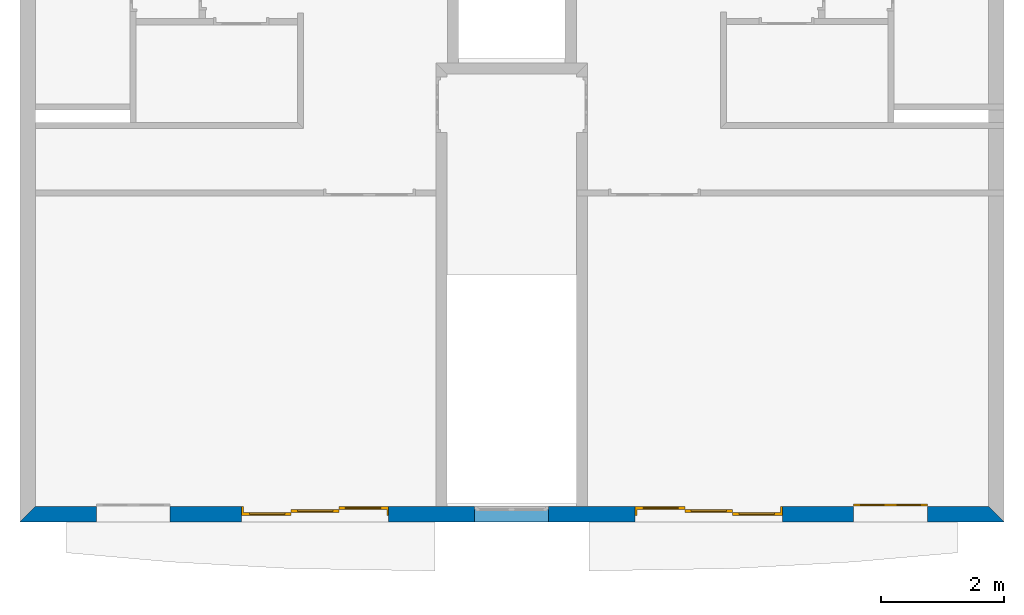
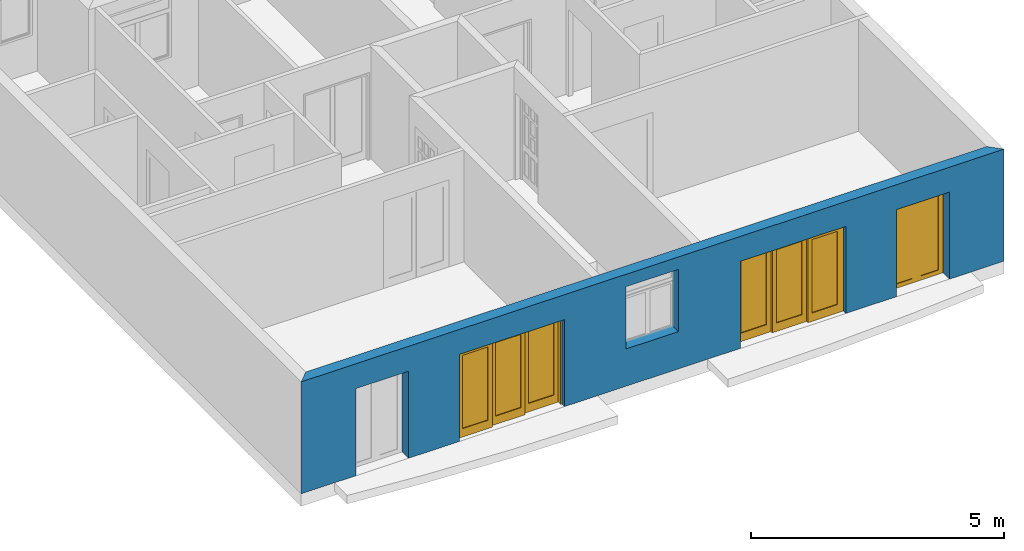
# One storey, part 2 of 11: 3 doors, 1 wall, 5 openings.
"""IFC2X3 building model written with IfcOpenShell, lengths in metres."""

import ifcopenshell
import ifcopenshell.guid

model = None  # the IFC model being written
_history = None  # IfcOwnerHistory: only IFC2X3 demands one
_inside = {}  # id of a spatial element -> (the spatial element, [elements in it])
_under = {}  # id of a project, library or spatial element -> (it, [spatial elements below it])
_declared = {}  # id of a project -> (the project, [libraries it declares])
_typed = {}  # id of a type object -> (the type object, [elements of that type])
_made_of = {}  # id of a material, layer set ... -> (it, [elements and type objects made of it])


def new_model(schema):
    """Start an empty IFC model of exactly this schema.

    Asked for "IFC4X3", IfcOpenShell would pick the latest addendum, in which some entities
    have other attributes; the version numbers below select the first issue.
    IFC2X3 requires an IfcOwnerHistory on every rooted entity: one is made here for all.
    """
    global model, _history
    if schema == "IFC4X3":
        model = ifcopenshell.file(schema_version=(4, 3, 0, 0))
    else:
        model = ifcopenshell.file(schema=schema)
    _inside.clear()
    _under.clear()
    _declared.clear()
    _typed.clear()
    _made_of.clear()
    _history = None
    if model.schema == "IFC2X3":
        org = make("IfcOrganization", Name="unknown")
        user = make(
            "IfcPersonAndOrganization",
            ThePerson=make("IfcPerson", FamilyName="unknown"),
            TheOrganization=org,
        )
        app = make(
            "IfcApplication",
            ApplicationDeveloper=org,
            Version="unknown",
            ApplicationFullName="unknown",
            ApplicationIdentifier="unknown",
        )
        _history = make(
            "IfcOwnerHistory",
            OwningUser=user,
            OwningApplication=app,
            ChangeAction="ADDED",
            CreationDate=0,
        )
    return model


def make(cls, **values):
    """One entity of the class cls with the attributes given. An attribute that is None is left unset."""
    return model.create_entity(
        cls, **{name: value for name, value in values.items() if value is not None}
    )


def entity(cls, *values):
    """Any entity or typed value of the class cls, its attributes in the order of the schema. None: left unset."""
    e = model.create_entity(cls)
    for i, value in enumerate(values):
        if value is not None:
            e[i] = value
    return e


def rooted(cls, **values):
    """An entity with a GlobalId (a new one), such as an element, a storey or a relation."""
    return make(cls, GlobalId=ifcopenshell.guid.new(), OwnerHistory=_history, **values)


def si_unit(unit_type, name, prefix=None):
    """IfcSIUnit, for example si_unit("LENGTHUNIT", "METRE", prefix="MILLI")."""
    return make("IfcSIUnit", UnitType=unit_type, Prefix=prefix, Name=name)


def converted_unit(unit_type, name, factor, base, dimensions=None, offset=None):
    """IfcConversionBasedUnit, such as the inch: factor (a typed value) times the base unit."""
    return make(
        "IfcConversionBasedUnit"
        if offset is None
        else "IfcConversionBasedUnitWithOffset",
        ConversionOffset=offset,
        Dimensions=None
        if dimensions is None
        else entity("IfcDimensionalExponents", *dimensions),
        UnitType=unit_type,
        Name=name,
        ConversionFactor=make(
            "IfcMeasureWithUnit", ValueComponent=factor, UnitComponent=base
        ),
    )


def assignment(units):
    """IfcUnitAssignment: the units of a project."""
    return None if units is None else make("IfcUnitAssignment", Units=units)


def point(xyz):
    """IfcCartesianPoint."""
    return None if xyz is None else make("IfcCartesianPoint", Coordinates=xyz)


def direction(xyz):
    """IfcDirection."""
    return None if xyz is None else make("IfcDirection", DirectionRatios=xyz)


def frame(location, z_axis=None, x_axis=None):
    """IfcAxis2Placement3D, a coordinate frame: its origin and axes. An axis left out is left unset."""
    return make(
        "IfcAxis2Placement3D",
        Location=point(location),
        Axis=direction(z_axis),
        RefDirection=direction(x_axis),
    )


def frame_2d(location, x_axis=None):
    """IfcAxis2Placement2D, a coordinate frame in the plane: its origin and x axis."""
    return make(
        "IfcAxis2Placement2D", Location=point(location), RefDirection=direction(x_axis)
    )


def origin_with_axes():
    """The frame at (0, 0, 0) with the z axis (0, 0, 1) and the x axis (1, 0, 0) written out."""
    return frame((0.0, 0.0, 0.0), z_axis=(0.0, 0.0, 1.0), x_axis=(1.0, 0.0, 0.0))


def place(relative_to, where):
    """IfcLocalPlacement: puts the frame where relative to a parent placement (None: the world)."""
    return make(
        "IfcLocalPlacement", PlacementRelTo=relative_to, RelativePlacement=where
    )


def context(
    kind, dimensions, precision=None, world=None, true_north=None, identifier=None
):
    """IfcGeometricRepresentationContext, for example the 3D "Model" context."""
    return make(
        "IfcGeometricRepresentationContext",
        ContextIdentifier=identifier,
        ContextType=kind,
        CoordinateSpaceDimension=dimensions,
        Precision=precision,
        WorldCoordinateSystem=world,
        TrueNorth=true_north,
    )


def project(units=None, contexts=None):
    """IfcProject with its units and contexts."""
    return rooted(
        "IfcProject",
        Name="project",
        RepresentationContexts=contexts,
        UnitsInContext=assignment(units),
    )


def spatial(cls, under=None, at=None, **own):
    """A site, building, storey or space (cls), placed at a placement, below another one or the project."""
    s = rooted(cls, ObjectPlacement=at, **own)
    if under is not None:
        _under.setdefault(under.id(), (under, []))[1].append(s)
    return s


def polyline(points):
    """IfcPolyline through the points."""
    return make("IfcPolyline", Points=[point(p) for p in points])


def profile(cls, at=None, kind="AREA", **sizes):
    """A parametric profile (cls). Its sizes go by their IFC names, for example OverallWidth=200.0."""
    return make(cls, ProfileType=kind, Position=at, **sizes)


def rectangle(**sizes):
    """IfcRectangleProfileDef."""
    return profile("IfcRectangleProfileDef", **sizes)


def outline(outer, holes=None, kind="AREA"):
    """IfcArbitraryClosedProfileDef: a profile drawn as a closed curve; with holes, ...WithVoids."""
    if holes is None:
        return make("IfcArbitraryClosedProfileDef", ProfileType=kind, OuterCurve=outer)
    return make(
        "IfcArbitraryProfileDefWithVoids",
        ProfileType=kind,
        OuterCurve=outer,
        InnerCurves=holes,
    )


def extrude(swept, where, along, depth):
    """IfcExtrudedAreaSolid: the profile swept, set in the frame where, extruded along a direction by depth."""
    return make(
        "IfcExtrudedAreaSolid",
        SweptArea=swept,
        Position=where,
        ExtrudedDirection=direction(along),
        Depth=depth,
    )


def faces_of(points, faces, orient=None, outer=None):
    """IfcFace entities. A face is a list of loops; a loop is a list of indices into points, from 0.

    orient and outer hold one flag for each loop. By default every Orientation is true, the
    first loop of a face is its IfcFaceOuterBound and the others are IfcFaceBound.
    """
    made = []
    for i, loops in enumerate(faces):
        bounds = []
        for j, loop in enumerate(loops):
            is_outer = j == 0 if outer is None else outer[i][j]
            bounds.append(
                make(
                    "IfcFaceOuterBound" if is_outer else "IfcFaceBound",
                    Bound=make("IfcPolyLoop", Polygon=[points[k] for k in loop]),
                    Orientation=True if orient is None else orient[i][j],
                )
            )
        made.append(make("IfcFace", Bounds=bounds))
    return made


def faceted_brep(points, faces, orient=None, outer=None, voids=None):
    """IfcFacetedBrep: a solid bounded by flat faces; with voids (closed shells), ...WithVoids."""
    shared = [point(p) for p in points]
    hull = make("IfcClosedShell", CfsFaces=faces_of(shared, faces, orient, outer))
    if voids is None:
        return make("IfcFacetedBrep", Outer=hull)
    return make(
        "IfcFacetedBrepWithVoids",
        Outer=hull,
        Voids=[
            make(cls, CfsFaces=faces_of(shared, fs, o, b)) for cls, fs, o, b in voids
        ],
    )


def shape(context_of_items, identifier, shape_type, items):
    """IfcShapeRepresentation: the items that make up one representation, for example the "Body"."""
    return make(
        "IfcShapeRepresentation",
        ContextOfItems=context_of_items,
        RepresentationIdentifier=identifier,
        RepresentationType=shape_type,
        Items=items,
    )


def source(mapping_origin, context_of_items, identifier, shape_type, items):
    """IfcRepresentationMap: a shape defined once, which mapped items show again and again."""
    return make(
        "IfcRepresentationMap",
        MappingOrigin=mapping_origin,
        MappedRepresentation=shape(context_of_items, identifier, shape_type, items),
    )


def transform(
    local_origin,
    x_axis=None,
    y_axis=None,
    z_axis=None,
    scale=None,
    scale2=None,
    scale3=None,
    uniform=True,
):
    """IfcCartesianTransformationOperator3D, or its non-uniform kind. x_axis, y_axis, z_axis: its Axis1, 2, 3."""
    if uniform:
        return make(
            "IfcCartesianTransformationOperator3D",
            Axis1=direction(x_axis),
            Axis2=direction(y_axis),
            LocalOrigin=point(local_origin),
            Scale=scale,
            Axis3=direction(z_axis),
        )
    return make(
        "IfcCartesianTransformationOperator3DnonUniform",
        Axis1=direction(x_axis),
        Axis2=direction(y_axis),
        LocalOrigin=point(local_origin),
        Scale=scale,
        Axis3=direction(z_axis),
        Scale2=scale2,
        Scale3=scale3,
    )


def mapped(mapping_source, mapping_target):
    """IfcMappedItem: shows the shape of a source again, moved by a transform."""
    return make(
        "IfcMappedItem", MappingSource=mapping_source, MappingTarget=mapping_target
    )


def material(Name=None, Category=None):
    """IfcMaterial."""
    return make("IfcMaterial", Name=Name, Category=Category)


def layer(
    of_material, thickness, ventilated=None, Name=None, Category=None, Priority=None
):
    """IfcMaterialLayer: one layer of a wall or slab, of a material (None: an air gap)."""
    return make(
        "IfcMaterialLayer",
        Material=of_material,
        LayerThickness=thickness,
        IsVentilated=ventilated,
        Name=Name,
        Category=Category,
        Priority=Priority,
    )


def layer_set(layers, Name=None):
    """IfcMaterialLayerSet."""
    return make("IfcMaterialLayerSet", MaterialLayers=layers, LayerSetName=Name)


def layer_usage(for_layer_set, set_direction, sense, offset, extent=None):
    """IfcMaterialLayerSetUsage: how a layer set lies in its element."""
    return make(
        "IfcMaterialLayerSetUsage",
        ForLayerSet=for_layer_set,
        LayerSetDirection=set_direction,
        DirectionSense=sense,
        OffsetFromReferenceLine=offset,
        ReferenceExtent=extent,
    )


def made_of(thing, what):
    """Note that an element or type object is made of a material, layer set ...; save() writes the relation."""
    if what is not None:
        _made_of.setdefault(what.id(), (what, []))[1].append(thing)
    return thing


def type_object(cls, material=None, **own):
    """A type object (cls), such as IfcWallType, which elements share."""
    return made_of(rooted(cls, **own), material)


def element(
    cls,
    number,
    at=None,
    inside=None,
    cuts=None,
    type_object=None,
    material=None,
    context=None,
    identifier="Body",
    shape_type=None,
    held_by="IfcProductDefinitionShape",
    body=None,
    shapes=None,
    **own,
):
    """One element of the class cls, such as IfcWall. Its Tag is "e" and its number.

    at: its placement. inside: the storey or other place that contains it. cuts: it is an
    opening in that element (IfcRelVoidsElement). A single representation is given by context,
    identifier, shape_type and body (its items); several are given by shapes. held_by: the class
    of the entity that holds the representations. save() writes the other relations.
    """
    e = rooted(cls, Tag="e%d" % number, ObjectPlacement=at, **own)
    if body is not None:
        shapes = [shape(context, identifier, shape_type, body)]
    if shapes is not None:
        e.Representation = make(held_by, Representations=shapes)
    if inside is not None:
        _inside.setdefault(inside.id(), (inside, []))[1].append(e)
    if cuts is not None:
        rooted(
            "IfcRelVoidsElement", RelatingBuildingElement=cuts, RelatedOpeningElement=e
        )
    if type_object is not None:
        _typed.setdefault(type_object.id(), (type_object, []))[1].append(e)
    return made_of(e, material)


def fill(opening, filler):
    """IfcRelFillsElement: the door or window that sits in an opening."""
    return rooted(
        "IfcRelFillsElement",
        RelatingOpeningElement=opening,
        RelatedBuildingElement=filler,
    )


def aggregate(whole, parts):
    """IfcRelAggregates: a whole, such as a stair, and the parts it consists of."""
    return rooted("IfcRelAggregates", RelatingObject=whole, RelatedObjects=parts)


def save(model, path):
    """Write the relations noted so far, then the file.

    IfcRelAggregates (storeys below a building ...), IfcRelContainedInSpatialStructure (elements
    in a storey), IfcRelDefinesByType, IfcRelAssociatesMaterial and IfcRelDeclares: one each for
    every whole, place, type object, material and project.
    """
    for whole, parts in _under.values():
        aggregate(whole, parts)
    for where, things in _inside.values():
        rooted(
            "IfcRelContainedInSpatialStructure",
            RelatedElements=things,
            RelatingStructure=where,
        )
    for kind, things in _typed.values():
        rooted("IfcRelDefinesByType", RelatedObjects=things, RelatingType=kind)
    for what, things in _made_of.values():
        rooted("IfcRelAssociatesMaterial", RelatedObjects=things, RelatingMaterial=what)
    for by, libraries in _declared.values():
        rooted("IfcRelDeclares", RelatingContext=by, RelatedDefinitions=libraries)
    model.write(path)


model = new_model("IFC2X3")

# Units and contexts
context_of_model = context(None, 3, precision=1e-05, world=origin_with_axes(), true_north=direction((6.123234e-17, 1.0)))
plan_context = context("Plan", 3, precision=1e-05, world=origin_with_axes(), true_north=direction((6.123234e-17, 1.0)))
model_context = context("Model", 3, precision=1e-05, world=origin_with_axes(), true_north=direction((6.123234e-17, 1.0)))
ifc_project = project(units=[si_unit("LENGTHUNIT", "METRE"), si_unit("AREAUNIT", "SQUARE_METRE"), si_unit("VOLUMEUNIT", "CUBIC_METRE"), converted_unit("PLANEANGLEUNIT", "DEGREE", entity("IfcPlaneAngleMeasure", 0.017453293), si_unit("PLANEANGLEUNIT", "RADIAN"), dimensions=[0, 0, 0, 0, 0, 0, 0]), si_unit("SOLIDANGLEUNIT", "STERADIAN"), si_unit("MASSUNIT", "GRAM"), si_unit("TIMEUNIT", "SECOND"), si_unit("THERMODYNAMICTEMPERATUREUNIT", "DEGREE_CELSIUS"), si_unit("LUMINOUSINTENSITYUNIT", "LUMEN")], contexts=[context_of_model, plan_context, model_context])

# Site, building, storey
site_placement = place(None, origin_with_axes())
site = spatial("IfcSite", under=ifc_project, at=site_placement, Name="Por defecto Sitio", CompositionType="ELEMENT")
building_placement = place(site_placement, origin_with_axes())
building = spatial("IfcBuilding", under=site, at=building_placement, Name="Por defecto Edificio", CompositionType="ELEMENT")
storey_placement = place(building_placement, frame((0.0, 0.0, 13.2), z_axis=(0.0, 0.0, 1.0), x_axis=(1.0, 0.0, 0.0)))
storey = spatial("IfcBuildingStorey", under=building, at=storey_placement, Name="Cuarta", CompositionType="ELEMENT", Elevation=13.2)

# Wall, openings, doors
ifc_material = material(Name="Ladrillo común")
ifc_layer = layer(ifc_material, 0.25, ventilated="UNKNOWN")
ifc_layer_set = layer_set([ifc_layer], Name="Ladrillo común")
ifc_layer_usage = layer_usage(ifc_layer_set, "AXIS2", "NEGATIVE", 0.0)
wall_type = type_object("IfcWallType", Name="Ladrillo común", PredefinedType="NOTDEFINED")
wall_placement = place(storey_placement, frame((16.03417, -1.1368684e-13, 0.0), z_axis=(0.0, 0.0, 1.0), x_axis=(-1.0, 7.0902852e-15, 0.0)))
wall = element("IfcWallStandardCase", 1, at=wall_placement, inside=storey, type_object=wall_type, material=ifc_layer_usage, Name="Muro-011", context=context_of_model, shape_type="SweptSolid", body=[
    extrude(outline(polyline([(0.25, -0.25), (15.784178, -0.25), (16.03417, 0.0), (0.0, 0.0), (0.25, -0.25)])), origin_with_axes(), (0.0, 0.0, 1.0), 2.7),
])
opening_1_placement = place(wall_placement, frame((11.225136, -0.25, 0.0), z_axis=(0.0, 0.0, 1.0), x_axis=(1.0, 0.0, 0.0)))
opening_1 = element("IfcOpeningElement", 2, at=opening_1_placement, cuts=wall, ObjectType="Opening", context=model_context, shape_type="SweptSolid", body=[
    extrude(rectangle(XDim=2.4, YDim=2.1, at=frame_2d((-1.7763568e-15, 1.05), x_axis=(-1.0, 0.0))), frame((0.0, 0.0, 0.0), z_axis=(0.0, 1.0, 0.0), x_axis=(-1.0, 0.0, 0.0)), (0.0, 0.0, 1.0), 0.25),
])
opening_2_placement = place(wall_placement, frame((4.8090341, -0.25, 0.0), z_axis=(0.0, 0.0, 1.0), x_axis=(1.0, 0.0, 0.0)))
opening_2 = element("IfcOpeningElement", 3, at=opening_2_placement, cuts=wall, ObjectType="Opening", context=model_context, shape_type="SweptSolid", body=[
    extrude(rectangle(XDim=2.4, YDim=2.1, at=frame_2d((-1.7763568e-15, 1.05), x_axis=(-1.0, 0.0))), frame((0.0, 0.0, 0.0), z_axis=(0.0, 1.0, 0.0), x_axis=(-1.0, 0.0, 0.0)), (0.0, 0.0, 1.0), 0.25),
])
opening_3_placement = place(wall_placement, frame((1.8475705, -0.25, 0.0), z_axis=(0.0, 0.0, 1.0), x_axis=(1.0, 0.0, 0.0)))
opening_3 = element("IfcOpeningElement", 4, at=opening_3_placement, cuts=wall, ObjectType="Opening", context=model_context, shape_type="SweptSolid", body=[
    extrude(rectangle(XDim=1.2, YDim=2.1, at=frame_2d((-1.7763568e-15, 1.05), x_axis=(-1.0, 0.0))), frame((0.0, 0.0, 0.0), z_axis=(0.0, 1.0, 0.0), x_axis=(-1.0, 0.0, 0.0)), (0.0, 0.0, 1.0), 0.25),
])
opening_4_placement = place(wall_placement, frame((14.186599, -0.25, 0.0), z_axis=(0.0, 0.0, 1.0), x_axis=(1.0, 0.0, 0.0)))
element("IfcOpeningElement", 5, at=opening_4_placement, cuts=wall, ObjectType="Opening", context=model_context, shape_type="SweptSolid", body=[
    extrude(rectangle(XDim=1.2, YDim=2.1, at=frame_2d((-1.7763568e-15, 1.05), x_axis=(-1.0, 0.0))), frame((0.0, 0.0, 0.0), z_axis=(0.0, 1.0, 0.0), x_axis=(-1.0, 0.0, 0.0)), (0.0, 0.0, 1.0), 0.25),
])
opening_5_placement = place(wall_placement, frame((8.0241698, -0.25, 0.9), z_axis=(0.0, 0.0, 1.0), x_axis=(1.0, 0.0, 0.0)))
element("IfcOpeningElement", 6, at=opening_5_placement, cuts=wall, ObjectType="Opening", context=model_context, shape_type="SweptSolid", body=[
    extrude(rectangle(XDim=1.2, YDim=1.5, at=frame_2d((-1.7763568e-15, 0.75), x_axis=(-1.0, 0.0))), frame((0.0, 0.0, 0.0), z_axis=(0.0, 1.0, 0.0), x_axis=(-1.0, 0.0, 0.0)), (0.0, 0.0, 1.0), 0.25),
])
door_style_1 = type_object("IfcDoorStyle", Name="P2 Corredera Ext 12", ConstructionType="NOTDEFINED", OperationType="DOUBLE_DOOR_SLIDING", ParameterTakesPrecedence=False, Sizeable=False)
shared_shape_1 = source(origin_with_axes(), model_context, "Body", "Brep", [
    faceted_brep([(-2.4424907e-15, 0.045, 0.1), (0.1, 0.045, 0.1), (0.1, 0.005, 0.1), (-2.220446e-15, 0.005, 0.1), (-2.4424907e-15, 0.045, 2.0), (0.1, 0.045, 2.0), (0.1, 0.005, 2.0), (-2.220446e-15, 0.005, 2.0)], [[[0, 1, 2, 3]], [[0, 4, 5, 1]], [[1, 5, 6, 2]], [[3, 2, 6, 7]], [[4, 0, 3, 7]], [[5, 4, 7, 6]]]),
    faceted_brep([(0.6, 0.045, 0.1), (0.6, 0.045, 2.0), (0.6, 0.005, 2.0), (0.6, 0.005, 0.1), (0.5, 0.045, 0.1), (0.5, 0.045, 2.0), (0.5, 0.005, 2.0), (0.5, 0.005, 0.1)], [[[0, 1, 2, 3]], [[0, 4, 5, 1]], [[1, 5, 6, 2]], [[3, 2, 6, 7]], [[4, 0, 3, 7]], [[5, 4, 7, 6]]]),
    faceted_brep([(-2.4424907e-15, 0.045, 0.0), (0.6, 0.045, 0.0), (0.6, 0.005, 0.0), (-2.220446e-15, 0.005, 0.0), (-2.4424907e-15, 0.045, 0.1), (0.1, 0.045, 0.1), (0.5, 0.045, 0.1), (0.6, 0.045, 0.1), (0.6, 0.005, 0.1), (0.5, 0.005, 0.1), (0.1, 0.005, 0.1), (-2.220446e-15, 0.005, 0.1)], [[[0, 1, 2, 3]], [[0, 4, 5, 6, 7, 1]], [[1, 7, 8, 2]], [[3, 2, 8, 9, 10, 11]], [[4, 0, 3, 11]], [[5, 4, 11, 10]], [[6, 5, 10, 9]], [[7, 6, 9, 8]]]),
    faceted_brep([(-2.4424907e-15, 0.045, 2.1), (-2.4424907e-15, 0.045, 2.0), (-2.220446e-15, 0.005, 2.0), (-2.220446e-15, 0.005, 2.1), (0.6, 0.045, 2.1), (0.6, 0.045, 2.0), (0.5, 0.045, 2.0), (0.1, 0.045, 2.0), (0.1, 0.005, 2.0), (0.5, 0.005, 2.0), (0.6, 0.005, 2.0), (0.6, 0.005, 2.1)], [[[0, 1, 2, 3]], [[0, 4, 5, 6, 7, 1]], [[1, 7, 8, 2]], [[3, 2, 8, 9, 10, 11]], [[4, 0, 3, 11]], [[5, 4, 11, 10]], [[6, 5, 10, 9]], [[7, 6, 9, 8]]]),
    faceted_brep([(0.1, 0.031, 0.1), (0.5, 0.031, 0.1), (0.5, 0.019, 0.1), (0.1, 0.019, 0.1), (0.1, 0.031, 2.0), (0.5, 0.031, 2.0), (0.5, 0.019, 2.0), (0.1, 0.019, 2.0)], [[[0, 1, 2, 3]], [[0, 4, 5, 1]], [[1, 5, 6, 2]], [[3, 2, 6, 7]], [[4, 0, 3, 7]], [[5, 4, 7, 6]]]),
    faceted_brep([(1.2, 0.045, 0.1), (1.2, 0.005, 0.1), (1.1, 0.005, 0.1), (1.1, 0.045, 0.1), (1.2, 0.045, 2.0), (1.2, 0.005, 2.0), (1.1, 0.005, 2.0), (1.1, 0.045, 2.0)], [[[0, 1, 2, 3]], [[4, 5, 1, 0]], [[1, 5, 6, 2]], [[3, 2, 6, 7]], [[0, 3, 7, 4]], [[7, 6, 5, 4]]]),
    faceted_brep([(0.6, 0.045, 0.1), (0.6, 0.005, 0.1), (0.6, 0.005, 2.0), (0.6, 0.045, 2.0), (0.7, 0.045, 0.1), (0.7, 0.005, 0.1), (0.7, 0.005, 2.0), (0.7, 0.045, 2.0)], [[[0, 1, 2, 3]], [[4, 5, 1, 0]], [[1, 5, 6, 2]], [[3, 2, 6, 7]], [[0, 3, 7, 4]], [[7, 6, 5, 4]]]),
    faceted_brep([(1.2, 0.045, 0.0), (1.2, 0.005, 0.0), (0.6, 0.005, 0.0), (0.6, 0.045, 0.0), (1.2, 0.045, 0.1), (1.2, 0.005, 0.1), (1.1, 0.005, 0.1), (0.7, 0.005, 0.1), (0.6, 0.005, 0.1), (0.6, 0.045, 0.1), (0.7, 0.045, 0.1), (1.1, 0.045, 0.1)], [[[0, 1, 2, 3]], [[4, 5, 1, 0]], [[1, 5, 6, 7, 8, 2]], [[3, 2, 8, 9]], [[0, 3, 9, 10, 11, 4]], [[11, 6, 5, 4]], [[10, 7, 6, 11]], [[9, 8, 7, 10]]]),
    faceted_brep([(1.2, 0.045, 2.1), (1.2, 0.005, 2.1), (1.2, 0.005, 2.0), (1.2, 0.045, 2.0), (0.6, 0.045, 2.1), (0.6, 0.005, 2.1), (0.6, 0.005, 2.0), (0.7, 0.005, 2.0), (1.1, 0.005, 2.0), (1.1, 0.045, 2.0), (0.7, 0.045, 2.0), (0.6, 0.045, 2.0)], [[[0, 1, 2, 3]], [[4, 5, 1, 0]], [[1, 5, 6, 7, 8, 2]], [[3, 2, 8, 9]], [[0, 3, 9, 10, 11, 4]], [[11, 6, 5, 4]], [[10, 7, 6, 11]], [[9, 8, 7, 10]]]),
    faceted_brep([(1.1, 0.031, 0.1), (1.1, 0.019, 0.1), (0.7, 0.019, 0.1), (0.7, 0.031, 0.1), (1.1, 0.031, 2.0), (1.1, 0.019, 2.0), (0.7, 0.019, 2.0), (0.7, 0.031, 2.0)], [[[0, 1, 2, 3]], [[4, 5, 1, 0]], [[1, 5, 6, 2]], [[3, 2, 6, 7]], [[0, 3, 7, 4]], [[7, 6, 5, 4]]]),
])
door_1_placement = place(opening_3_placement, frame((0.6, 0.0, 0.0), z_axis=(0.0, 0.0, 1.0), x_axis=(-1.0, 0.0, 0.0)))
door_1 = element("IfcDoor", 7, at=door_1_placement, inside=storey, type_object=door_style_1, Name="P30", OverallHeight=2.1, OverallWidth=1.2, context=model_context, shape_type="MappedRepresentation", body=[
    mapped(shared_shape_1, transform((0.0, 0.0, 0.0), scale=1.0)),
])
fill(opening_3, door_1)
door_style_2 = type_object("IfcDoorStyle", Name="P3 Corredera 12", ConstructionType="NOTDEFINED", OperationType="SLIDING_TO_RIGHT", ParameterTakesPrecedence=False, Sizeable=False)
shared_shape_2 = source(origin_with_axes(), model_context, "Body", "Brep", [
    faceted_brep([(0.03, 0.15, 0.0), (0.03, 0.15, 2.07), (0.03, -8.6333718e-14, 2.07), (0.03, -8.6222696e-14, 0.0), (-1.7763568e-15, 0.15, 0.0), (-1.7763568e-15, 0.15, 2.07), (-8.8817842e-16, -8.6541885e-14, 2.07), (0.0, 0.0, 0.0)], [[[0, 1, 2, 3]], [[0, 4, 5, 1]], [[1, 5, 6, 2]], [[3, 2, 6, 7]], [[4, 0, 3, 7]], [[5, 4, 7, 6]]]),
    faceted_brep([(2.4, 0.15, 0.0), (2.4, 0.15, 2.07), (2.4, -7.0110584e-14, 2.07), (2.4, -6.9999562e-14, 0.0), (2.37, 0.15, 0.0), (2.37, 0.15, 2.07), (2.37, -7.0318751e-14, 2.07), (2.37, -7.0179973e-14, 0.0)], [[[0, 1, 2, 3]], [[0, 4, 5, 1]], [[1, 5, 6, 2]], [[3, 2, 6, 7]], [[4, 0, 3, 7]], [[5, 4, 7, 6]]]),
    faceted_brep([(-1.7763568e-15, 0.15, 2.1), (-1.7763568e-15, 0.15, 2.07), (-8.8817842e-16, -8.6541885e-14, 2.07), (-8.8817842e-16, -8.6541885e-14, 2.1), (2.4, 0.15, 2.1), (2.4, 0.15, 2.07), (2.37, 0.15, 2.07), (0.03, 0.15, 2.07), (0.03, -8.6333718e-14, 2.07), (2.37, -7.0318751e-14, 2.07), (2.4, -7.0110584e-14, 2.07), (2.4, -7.0110584e-14, 2.1)], [[[0, 1, 2, 3]], [[0, 4, 5, 6, 7, 1]], [[1, 7, 8, 2]], [[3, 2, 8, 9, 10, 11]], [[4, 0, 3, 11]], [[5, 4, 11, 10]], [[6, 5, 10, 9]], [[7, 6, 9, 8]]]),
    faceted_brep([(2.37, 0.15, 0.2), (2.37, 0.1, 0.2), (2.27, 0.1, 0.2), (2.27, 0.15, 0.2), (2.37, 0.15, 1.97), (2.37, 0.1, 1.97), (2.27, 0.1, 1.97), (2.27, 0.15, 1.97)], [[[0, 1, 2, 3]], [[4, 5, 1, 0]], [[1, 5, 6, 2]], [[3, 2, 6, 7]], [[0, 3, 7, 4]], [[7, 6, 5, 4]]]),
    faceted_brep([(1.59, 0.15, 0.2), (1.59, 0.1, 0.2), (1.59, 0.1, 1.97), (1.59, 0.15, 1.97), (1.69, 0.15, 0.2), (1.69, 0.1, 0.2), (1.69, 0.1, 1.97), (1.69, 0.15, 1.97)], [[[0, 1, 2, 3]], [[4, 5, 1, 0]], [[1, 5, 6, 2]], [[3, 2, 6, 7]], [[0, 3, 7, 4]], [[7, 6, 5, 4]]]),
    faceted_brep([(2.37, 0.15, 0.0), (2.37, 0.1, 0.0), (1.59, 0.1, 0.0), (1.59, 0.15, 0.0), (2.37, 0.15, 0.2), (2.37, 0.1, 0.2), (2.27, 0.1, 0.2), (1.69, 0.1, 0.2), (1.59, 0.1, 0.2), (1.59, 0.15, 0.2), (1.69, 0.15, 0.2), (2.27, 0.15, 0.2)], [[[0, 1, 2, 3]], [[4, 5, 1, 0]], [[1, 5, 6, 7, 8, 2]], [[3, 2, 8, 9]], [[0, 3, 9, 10, 11, 4]], [[11, 6, 5, 4]], [[10, 7, 6, 11]], [[9, 8, 7, 10]]]),
    faceted_brep([(2.37, 0.15, 2.07), (2.37, 0.1, 2.07), (2.37, 0.1, 1.97), (2.37, 0.15, 1.97), (1.59, 0.15, 2.07), (1.59, 0.1, 2.07), (1.59, 0.1, 1.97), (1.69, 0.1, 1.97), (2.27, 0.1, 1.97), (2.27, 0.15, 1.97), (1.69, 0.15, 1.97), (1.59, 0.15, 1.97)], [[[0, 1, 2, 3]], [[4, 5, 1, 0]], [[1, 5, 6, 7, 8, 2]], [[3, 2, 8, 9]], [[0, 3, 9, 10, 11, 4]], [[11, 6, 5, 4]], [[10, 7, 6, 11]], [[9, 8, 7, 10]]]),
    faceted_brep([(2.27, 0.131, 0.2), (2.27, 0.119, 0.2), (1.69, 0.119, 0.2), (1.69, 0.131, 0.2), (2.27, 0.131, 1.97), (2.27, 0.119, 1.97), (1.69, 0.119, 1.97), (1.69, 0.131, 1.97)], [[[0, 1, 2, 3]], [[4, 5, 1, 0]], [[1, 5, 6, 2]], [[3, 2, 6, 7]], [[0, 3, 7, 4]], [[7, 6, 5, 4]]]),
    faceted_brep([(1.59, 0.1, 0.2), (1.59, 0.05, 0.2), (1.49, 0.05, 0.2), (1.49, 0.1, 0.2), (1.59, 0.1, 1.97), (1.59, 0.05, 1.97), (1.49, 0.05, 1.97), (1.49, 0.1, 1.97)], [[[0, 1, 2, 3]], [[4, 5, 1, 0]], [[1, 5, 6, 2]], [[3, 2, 6, 7]], [[0, 3, 7, 4]], [[7, 6, 5, 4]]]),
    faceted_brep([(0.81, 0.1, 0.2), (0.81, 0.05, 0.2), (0.81, 0.05, 1.97), (0.81, 0.1, 1.97), (0.91, 0.1, 0.2), (0.91, 0.05, 0.2), (0.91, 0.05, 1.97), (0.91, 0.1, 1.97)], [[[0, 1, 2, 3]], [[4, 5, 1, 0]], [[1, 5, 6, 2]], [[3, 2, 6, 7]], [[0, 3, 7, 4]], [[7, 6, 5, 4]]]),
    faceted_brep([(1.59, 0.1, 0.0), (1.59, 0.05, 0.0), (0.81, 0.05, 0.0), (0.81, 0.1, 0.0), (1.59, 0.1, 0.2), (1.59, 0.05, 0.2), (1.49, 0.05, 0.2), (0.91, 0.05, 0.2), (0.81, 0.05, 0.2), (0.81, 0.1, 0.2), (0.91, 0.1, 0.2), (1.49, 0.1, 0.2)], [[[0, 1, 2, 3]], [[4, 5, 1, 0]], [[1, 5, 6, 7, 8, 2]], [[3, 2, 8, 9]], [[0, 3, 9, 10, 11, 4]], [[11, 6, 5, 4]], [[10, 7, 6, 11]], [[9, 8, 7, 10]]]),
    faceted_brep([(1.59, 0.1, 2.07), (1.59, 0.05, 2.07), (1.59, 0.05, 1.97), (1.59, 0.1, 1.97), (0.81, 0.1, 2.07), (0.81, 0.05, 2.07), (0.81, 0.05, 1.97), (0.91, 0.05, 1.97), (1.49, 0.05, 1.97), (1.49, 0.1, 1.97), (0.91, 0.1, 1.97), (0.81, 0.1, 1.97)], [[[0, 1, 2, 3]], [[4, 5, 1, 0]], [[1, 5, 6, 7, 8, 2]], [[3, 2, 8, 9]], [[0, 3, 9, 10, 11, 4]], [[11, 6, 5, 4]], [[10, 7, 6, 11]], [[9, 8, 7, 10]]]),
    faceted_brep([(1.49, 0.081, 0.2), (1.49, 0.069, 0.2), (0.91, 0.069, 0.2), (0.91, 0.081, 0.2), (1.49, 0.081, 1.97), (1.49, 0.069, 1.97), (0.91, 0.069, 1.97), (0.91, 0.081, 1.97)], [[[0, 1, 2, 3]], [[4, 5, 1, 0]], [[1, 5, 6, 2]], [[3, 2, 6, 7]], [[0, 3, 7, 4]], [[7, 6, 5, 4]]]),
    faceted_brep([(0.81, 0.05, 0.2), (0.81, -8.0907503e-14, 0.2), (0.71, -8.1587515e-14, 0.2), (0.71, 0.05, 0.2), (0.81, 0.05, 1.97), (0.81, -8.1129548e-14, 1.97), (0.71, -8.1809559e-14, 1.97), (0.71, 0.05, 1.97)], [[[0, 1, 2, 3]], [[4, 5, 1, 0]], [[1, 5, 6, 2]], [[3, 2, 6, 7]], [[0, 3, 7, 4]], [[7, 6, 5, 4]]]),
    faceted_brep([(0.03, 0.05, 0.2), (0.03, -8.6250451e-14, 0.2), (0.03, -8.6472496e-14, 1.97), (0.03, 0.05, 1.97), (0.13, 0.05, 0.2), (0.13, -8.557044e-14, 0.2), (0.13, -8.5792484e-14, 1.97), (0.13, 0.05, 1.97)], [[[0, 1, 2, 3]], [[4, 5, 1, 0]], [[1, 5, 6, 2]], [[3, 2, 6, 7]], [[0, 3, 7, 4]], [[7, 6, 5, 4]]]),
    faceted_brep([(0.81, 0.05, 0.0), (0.81, -8.0907503e-14, 0.0), (0.03, -8.6250451e-14, 0.0), (0.03, 0.05, 0.0), (0.81, 0.05, 0.2), (0.81, -8.0907503e-14, 0.2), (0.71, -8.1587515e-14, 0.2), (0.13, -8.557044e-14, 0.2), (0.03, -8.6250451e-14, 0.2), (0.03, 0.05, 0.2), (0.13, 0.05, 0.2), (0.71, 0.05, 0.2)], [[[0, 1, 2, 3]], [[4, 5, 1, 0]], [[1, 5, 6, 7, 8, 2]], [[3, 2, 8, 9]], [[0, 3, 9, 10, 11, 4]], [[11, 6, 5, 4]], [[10, 7, 6, 11]], [[9, 8, 7, 10]]]),
    faceted_brep([(0.81, 0.05, 2.07), (0.81, -8.1129548e-14, 2.07), (0.81, -8.1129548e-14, 1.97), (0.81, 0.05, 1.97), (0.03, 0.05, 2.07), (0.03, -8.6472496e-14, 2.07), (0.03, -8.6472496e-14, 1.97), (0.13, -8.5792484e-14, 1.97), (0.71, -8.1809559e-14, 1.97), (0.71, 0.05, 1.97), (0.13, 0.05, 1.97), (0.03, 0.05, 1.97)], [[[0, 1, 2, 3]], [[4, 5, 1, 0]], [[1, 5, 6, 7, 8, 2]], [[3, 2, 8, 9]], [[0, 3, 9, 10, 11, 4]], [[11, 6, 5, 4]], [[10, 7, 6, 11]], [[9, 8, 7, 10]]]),
    faceted_brep([(0.71, 0.031, 0.2), (0.71, 0.019, 0.2), (0.13, 0.019, 0.2), (0.13, 0.031, 0.2), (0.71, 0.031, 1.97), (0.71, 0.019, 1.97), (0.13, 0.019, 1.97), (0.13, 0.031, 1.97)], [[[0, 1, 2, 3]], [[4, 5, 1, 0]], [[1, 5, 6, 2]], [[3, 2, 6, 7]], [[0, 3, 7, 4]], [[7, 6, 5, 4]]]),
])
door_2_placement = place(opening_1_placement, frame((1.2, 0.15, 0.0), z_axis=(0.0, 0.0, 1.0), x_axis=(-1.0, 0.0, 0.0)))
door_2 = element("IfcDoor", 8, at=door_2_placement, inside=storey, type_object=door_style_2, Name="P26", OverallHeight=2.1, OverallWidth=2.4, context=model_context, shape_type="MappedRepresentation", body=[
    mapped(shared_shape_2, transform((0.0, 0.0, 0.0), scale=1.0)),
])
fill(opening_1, door_2)
door_style_3 = type_object("IfcDoorStyle", Name="P3 Corredera 12", ConstructionType="NOTDEFINED", OperationType="SLIDING_TO_LEFT", ParameterTakesPrecedence=False, Sizeable=False)
shared_shape_3 = source(origin_with_axes(), model_context, "Body", "Brep", [
    faceted_brep([(2.37, 0.15, 0.0), (2.37, -2.5493496e-14, 0.0), (2.37, -2.5632274e-14, 2.07), (2.37, 0.15, 2.07), (2.4, 0.15, 0.0), (2.4, -2.5313085e-14, 0.0), (2.4, -2.5424107e-14, 2.07), (2.4, 0.15, 2.07)], [[[0, 1, 2, 3]], [[4, 5, 1, 0]], [[1, 5, 6, 2]], [[3, 2, 6, 7]], [[0, 3, 7, 4]], [[7, 6, 5, 4]]]),
    faceted_brep([(-1.7763568e-15, 0.15, 0.0), (0.0, 0.0, 0.0), (0.0, -4.1855408e-14, 2.07), (-1.7763568e-15, 0.15, 2.07), (0.03, 0.15, 0.0), (0.03, -4.1536219e-14, 0.0), (0.03, -4.1647241e-14, 2.07), (0.03, 0.15, 2.07)], [[[0, 1, 2, 3]], [[4, 5, 1, 0]], [[1, 5, 6, 2]], [[3, 2, 6, 7]], [[0, 3, 7, 4]], [[7, 6, 5, 4]]]),
    faceted_brep([(2.4, 0.15, 2.1), (2.4, -2.5424107e-14, 2.1), (2.4, -2.5424107e-14, 2.07), (2.4, 0.15, 2.07), (-1.7763568e-15, 0.15, 2.1), (0.0, -4.1855408e-14, 2.1), (0.0, -4.1855408e-14, 2.07), (0.03, -4.1647241e-14, 2.07), (2.37, -2.5632274e-14, 2.07), (2.37, 0.15, 2.07), (0.03, 0.15, 2.07), (-1.7763568e-15, 0.15, 2.07)], [[[0, 1, 2, 3]], [[4, 5, 1, 0]], [[1, 5, 6, 7, 8, 2]], [[3, 2, 8, 9]], [[0, 3, 9, 10, 11, 4]], [[11, 6, 5, 4]], [[10, 7, 6, 11]], [[9, 8, 7, 10]]]),
    faceted_brep([(0.03, 0.15, 0.2), (0.13, 0.15, 0.2), (0.13, 0.1, 0.2), (0.03, 0.1, 0.2), (0.03, 0.15, 1.97), (0.13, 0.15, 1.97), (0.13, 0.1, 1.97), (0.03, 0.1, 1.97)], [[[0, 1, 2, 3]], [[0, 4, 5, 1]], [[1, 5, 6, 2]], [[3, 2, 6, 7]], [[4, 0, 3, 7]], [[5, 4, 7, 6]]]),
    faceted_brep([(0.81, 0.15, 0.2), (0.81, 0.15, 1.97), (0.81, 0.1, 1.97), (0.81, 0.1, 0.2), (0.71, 0.15, 0.2), (0.71, 0.15, 1.97), (0.71, 0.1, 1.97), (0.71, 0.1, 0.2)], [[[0, 1, 2, 3]], [[0, 4, 5, 1]], [[1, 5, 6, 2]], [[3, 2, 6, 7]], [[4, 0, 3, 7]], [[5, 4, 7, 6]]]),
    faceted_brep([(0.03, 0.15, 0.0), (0.81, 0.15, 0.0), (0.81, 0.1, 0.0), (0.03, 0.1, 0.0), (0.03, 0.15, 0.2), (0.13, 0.15, 0.2), (0.71, 0.15, 0.2), (0.81, 0.15, 0.2), (0.81, 0.1, 0.2), (0.71, 0.1, 0.2), (0.13, 0.1, 0.2), (0.03, 0.1, 0.2)], [[[0, 1, 2, 3]], [[0, 4, 5, 6, 7, 1]], [[1, 7, 8, 2]], [[3, 2, 8, 9, 10, 11]], [[4, 0, 3, 11]], [[5, 4, 11, 10]], [[6, 5, 10, 9]], [[7, 6, 9, 8]]]),
    faceted_brep([(0.03, 0.15, 2.07), (0.03, 0.15, 1.97), (0.03, 0.1, 1.97), (0.03, 0.1, 2.07), (0.81, 0.15, 2.07), (0.81, 0.15, 1.97), (0.71, 0.15, 1.97), (0.13, 0.15, 1.97), (0.13, 0.1, 1.97), (0.71, 0.1, 1.97), (0.81, 0.1, 1.97), (0.81, 0.1, 2.07)], [[[0, 1, 2, 3]], [[0, 4, 5, 6, 7, 1]], [[1, 7, 8, 2]], [[3, 2, 8, 9, 10, 11]], [[4, 0, 3, 11]], [[5, 4, 11, 10]], [[6, 5, 10, 9]], [[7, 6, 9, 8]]]),
    faceted_brep([(0.13, 0.131, 0.2), (0.71, 0.131, 0.2), (0.71, 0.119, 0.2), (0.13, 0.119, 0.2), (0.13, 0.131, 1.97), (0.71, 0.131, 1.97), (0.71, 0.119, 1.97), (0.13, 0.119, 1.97)], [[[0, 1, 2, 3]], [[0, 4, 5, 1]], [[1, 5, 6, 2]], [[3, 2, 6, 7]], [[4, 0, 3, 7]], [[5, 4, 7, 6]]]),
    faceted_brep([(0.81, 0.1, 0.2), (0.91, 0.1, 0.2), (0.91, 0.05, 0.2), (0.81, 0.05, 0.2), (0.81, 0.1, 1.97), (0.91, 0.1, 1.97), (0.91, 0.05, 1.97), (0.81, 0.05, 1.97)], [[[0, 1, 2, 3]], [[0, 4, 5, 1]], [[1, 5, 6, 2]], [[3, 2, 6, 7]], [[4, 0, 3, 7]], [[5, 4, 7, 6]]]),
    faceted_brep([(1.59, 0.1, 0.2), (1.59, 0.1, 1.97), (1.59, 0.05, 1.97), (1.59, 0.05, 0.2), (1.49, 0.1, 0.2), (1.49, 0.1, 1.97), (1.49, 0.05, 1.97), (1.49, 0.05, 0.2)], [[[0, 1, 2, 3]], [[0, 4, 5, 1]], [[1, 5, 6, 2]], [[3, 2, 6, 7]], [[4, 0, 3, 7]], [[5, 4, 7, 6]]]),
    faceted_brep([(0.81, 0.1, 0.0), (1.59, 0.1, 0.0), (1.59, 0.05, 0.0), (0.81, 0.05, 0.0), (0.81, 0.1, 0.2), (0.91, 0.1, 0.2), (1.49, 0.1, 0.2), (1.59, 0.1, 0.2), (1.59, 0.05, 0.2), (1.49, 0.05, 0.2), (0.91, 0.05, 0.2), (0.81, 0.05, 0.2)], [[[0, 1, 2, 3]], [[0, 4, 5, 6, 7, 1]], [[1, 7, 8, 2]], [[3, 2, 8, 9, 10, 11]], [[4, 0, 3, 11]], [[5, 4, 11, 10]], [[6, 5, 10, 9]], [[7, 6, 9, 8]]]),
    faceted_brep([(0.81, 0.1, 2.07), (0.81, 0.1, 1.97), (0.81, 0.05, 1.97), (0.81, 0.05, 2.07), (1.59, 0.1, 2.07), (1.59, 0.1, 1.97), (1.49, 0.1, 1.97), (0.91, 0.1, 1.97), (0.91, 0.05, 1.97), (1.49, 0.05, 1.97), (1.59, 0.05, 1.97), (1.59, 0.05, 2.07)], [[[0, 1, 2, 3]], [[0, 4, 5, 6, 7, 1]], [[1, 7, 8, 2]], [[3, 2, 8, 9, 10, 11]], [[4, 0, 3, 11]], [[5, 4, 11, 10]], [[6, 5, 10, 9]], [[7, 6, 9, 8]]]),
    faceted_brep([(0.91, 0.081, 0.2), (1.49, 0.081, 0.2), (1.49, 0.069, 0.2), (0.91, 0.069, 0.2), (0.91, 0.081, 1.97), (1.49, 0.081, 1.97), (1.49, 0.069, 1.97), (0.91, 0.069, 1.97)], [[[0, 1, 2, 3]], [[0, 4, 5, 1]], [[1, 5, 6, 2]], [[3, 2, 6, 7]], [[4, 0, 3, 7]], [[5, 4, 7, 6]]]),
    faceted_brep([(1.59, 0.05, 0.2), (1.69, 0.05, 0.2), (1.69, -3.0211944e-14, 0.2), (1.59, -3.0891956e-14, 0.2), (1.59, 0.05, 1.97), (1.69, 0.05, 1.97), (1.69, -3.0433989e-14, 1.97), (1.59, -3.1114e-14, 1.97)], [[[0, 1, 2, 3]], [[0, 4, 5, 1]], [[1, 5, 6, 2]], [[3, 2, 6, 7]], [[4, 0, 3, 7]], [[5, 4, 7, 6]]]),
    faceted_brep([(2.37, 0.05, 0.2), (2.37, 0.05, 1.97), (2.37, -2.5771052e-14, 1.97), (2.37, -2.5549007e-14, 0.2), (2.27, 0.05, 0.2), (2.27, 0.05, 1.97), (2.27, -2.6451064e-14, 1.97), (2.27, -2.6229019e-14, 0.2)], [[[0, 1, 2, 3]], [[0, 4, 5, 1]], [[1, 5, 6, 2]], [[3, 2, 6, 7]], [[4, 0, 3, 7]], [[5, 4, 7, 6]]]),
    faceted_brep([(1.59, 0.05, 0.0), (2.37, 0.05, 0.0), (2.37, -2.5521252e-14, 0.0), (1.59, -3.08642e-14, 0.0), (1.59, 0.05, 0.2), (1.69, 0.05, 0.2), (2.27, 0.05, 0.2), (2.37, 0.05, 0.2), (2.37, -2.5549007e-14, 0.2), (2.27, -2.6229019e-14, 0.2), (1.69, -3.0211944e-14, 0.2), (1.59, -3.0891956e-14, 0.2)], [[[0, 1, 2, 3]], [[0, 4, 5, 6, 7, 1]], [[1, 7, 8, 2]], [[3, 2, 8, 9, 10, 11]], [[4, 0, 3, 11]], [[5, 4, 11, 10]], [[6, 5, 10, 9]], [[7, 6, 9, 8]]]),
    faceted_brep([(1.59, 0.05, 2.07), (1.59, 0.05, 1.97), (1.59, -3.1114e-14, 1.97), (1.59, -3.1114e-14, 2.07), (2.37, 0.05, 2.07), (2.37, 0.05, 1.97), (2.27, 0.05, 1.97), (1.69, 0.05, 1.97), (1.69, -3.0433989e-14, 1.97), (2.27, -2.6451064e-14, 1.97), (2.37, -2.5771052e-14, 1.97), (2.37, -2.5771052e-14, 2.07)], [[[0, 1, 2, 3]], [[0, 4, 5, 6, 7, 1]], [[1, 7, 8, 2]], [[3, 2, 8, 9, 10, 11]], [[4, 0, 3, 11]], [[5, 4, 11, 10]], [[6, 5, 10, 9]], [[7, 6, 9, 8]]]),
    faceted_brep([(1.69, 0.031, 0.2), (2.27, 0.031, 0.2), (2.27, 0.019, 0.2), (1.69, 0.019, 0.2), (1.69, 0.031, 1.97), (2.27, 0.031, 1.97), (2.27, 0.019, 1.97), (1.69, 0.019, 1.97)], [[[0, 1, 2, 3]], [[0, 4, 5, 1]], [[1, 5, 6, 2]], [[3, 2, 6, 7]], [[4, 0, 3, 7]], [[5, 4, 7, 6]]]),
])
door_3_placement = place(opening_2_placement, frame((1.2, 0.15, 0.0), z_axis=(0.0, 0.0, 1.0), x_axis=(-1.0, 0.0, 0.0)))
door_3 = element("IfcDoor", 9, at=door_3_placement, inside=storey, type_object=door_style_3, Name="P27", OverallHeight=2.1, OverallWidth=2.4, context=model_context, shape_type="MappedRepresentation", body=[
    mapped(shared_shape_3, transform((0.0, 0.0, 0.0), scale=1.0)),
])
fill(opening_2, door_3)

save(model, "model.ifc")
